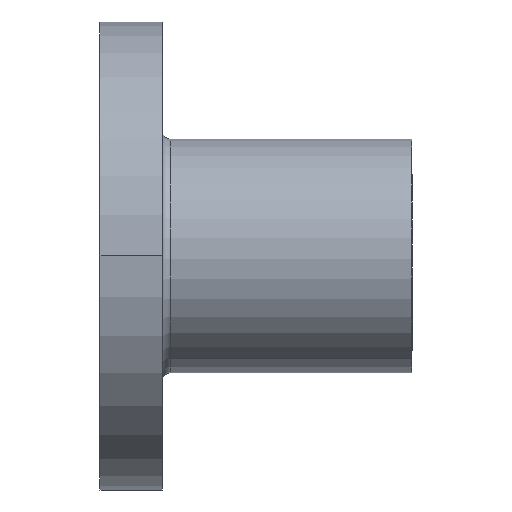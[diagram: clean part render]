
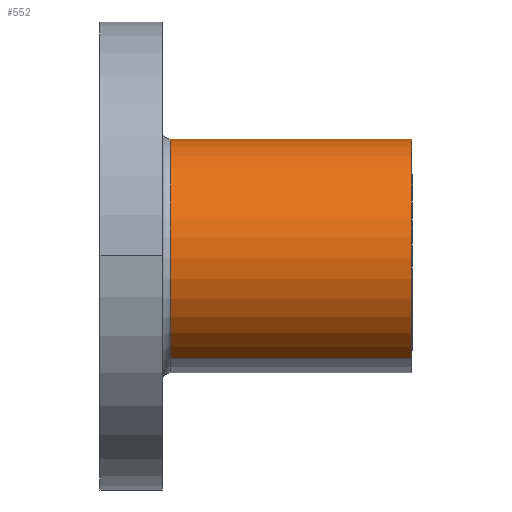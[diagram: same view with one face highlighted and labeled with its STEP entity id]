
A CAD part, front view. The second image highlights one B-rep face of the part: STEP entity #552.
In plain terms, the highlighted cylindrical face has radius 7.5 mm (diameter 15 mm), a partial arc.
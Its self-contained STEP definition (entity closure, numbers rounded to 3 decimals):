
#143=CARTESIAN_POINT('Axis2P3D Location',(20.,0.,0.)) ;
#147=CARTESIAN_POINT('Vertex',(20.,3.596,6.582)) ;
#149=CARTESIAN_POINT('Vertex',(20.,-3.596,-6.582)) ;
#522=CARTESIAN_POINT('Axis2P3D Location',(49.092,0.,0.)) ;
#527=CARTESIAN_POINT('Line Origine',(49.092,-3.596,-6.582)) ;
#531=CARTESIAN_POINT('Vertex',(4.5,-3.596,-6.582)) ;
#534=CARTESIAN_POINT('Line Origine',(49.092,3.596,6.582)) ;
#538=CARTESIAN_POINT('Vertex',(4.5,3.596,6.582)) ;
#541=CARTESIAN_POINT('Axis2P3D Location',(4.5,0.,0.)) ;
#144=DIRECTION('Axis2P3D Direction',(1.,0.,0.)) ;
#523=DIRECTION('Axis2P3D Direction',(-1.,0.,0.)) ;
#524=DIRECTION('Axis2P3D XDirection',(0.,-0.479,-0.878)) ;
#528=DIRECTION('Vector Direction',(-1.,0.,0.)) ;
#535=DIRECTION('Vector Direction',(-1.,0.,0.)) ;
#542=DIRECTION('Axis2P3D Direction',(-1.,0.,0.)) ;
#145=AXIS2_PLACEMENT_3D('Circle Axis2P3D',#143,#144,$) ;
#525=AXIS2_PLACEMENT_3D('Cylinder Axis2P3D',#522,#523,#524) ;
#543=AXIS2_PLACEMENT_3D('Circle Axis2P3D',#541,#542,$) ;
#547=ORIENTED_EDGE('',*,*,#533,.F.) ;
#548=ORIENTED_EDGE('',*,*,#151,.F.) ;
#549=ORIENTED_EDGE('',*,*,#540,.T.) ;
#550=ORIENTED_EDGE('',*,*,#545,.T.) ;
#529=VECTOR('Line Direction',#528,1.) ;
#536=VECTOR('Line Direction',#535,1.) ;
#552=ADVANCED_FACE('CTM8',(#551),#526,.T.) ;
#146=CIRCLE('generated circle',#145,7.5) ;
#544=CIRCLE('generated circle',#543,7.5) ;
#526=CYLINDRICAL_SURFACE('generated cylinder',#525,7.5) ;
#151=EDGE_CURVE('',#148,#150,#146,.T.) ;
#533=EDGE_CURVE('',#150,#532,#530,.T.) ;
#540=EDGE_CURVE('',#148,#539,#537,.T.) ;
#545=EDGE_CURVE('',#539,#532,#544,.F.) ;
#546=EDGE_LOOP('',(#547,#548,#549,#550)) ;
#551=FACE_OUTER_BOUND('',#546,.T.) ;
#530=LINE('Line',#527,#529) ;
#537=LINE('Line',#534,#536) ;
#148=VERTEX_POINT('',#147) ;
#150=VERTEX_POINT('',#149) ;
#532=VERTEX_POINT('',#531) ;
#539=VERTEX_POINT('',#538) ;
